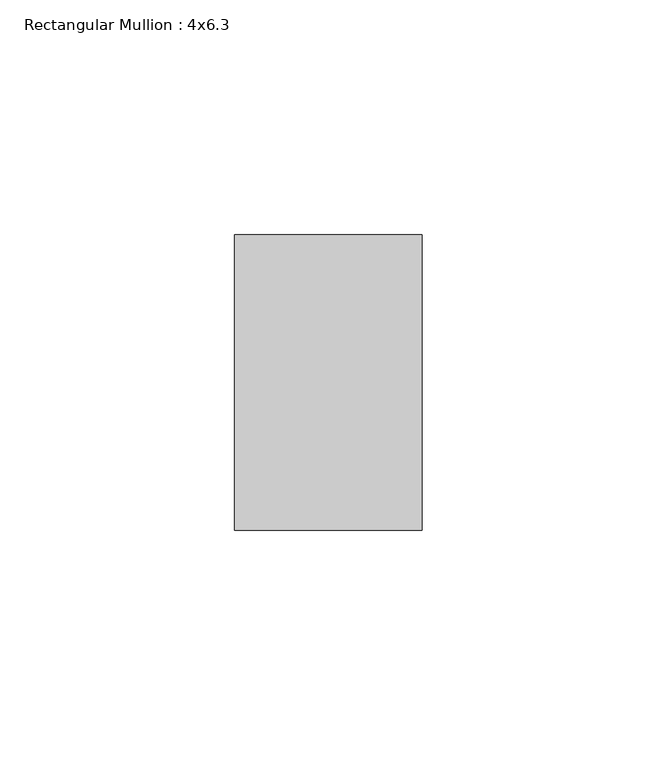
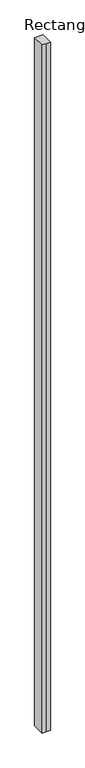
"""IFC4 building model written with IfcOpenShell, lengths in millimetres: member geometry, Rectangular Mullion : 4x6.3."""

from ifc_helpers import new_model, si_unit, frame, origin, place, context, project, spatial, polyline, outline, extrude, source, transform, mapped, element, save


def rectangular_mullion_4x6_3_14a16d08(model_context):
    return source(origin(), model_context, "Body", "SweptSolid", [
        extrude(outline(polyline([(-20.0, 20.0), (-20.0, 83.0), (20.0, 83.0), (20.0, 20.0), (0.0, 20.0), (-20.0, 20.0)])), frame((0.0, 0.0, -3562.1218242), z_axis=(0.0, 0.0, 1.0), x_axis=(1.0, 0.0, 0.0)), (0.0, 0.0, 1.0), 3562.1218242),
    ])


if __name__ == "__main__":
    model = new_model("IFC4")
    model_context = context("Model", 3, world=origin())
    ifc_project = project(units=[si_unit("LENGTHUNIT", "METRE", prefix="MILLI")], contexts=[model_context])
    site = spatial("IfcSite", under=ifc_project)
    building = spatial("IfcBuilding", under=site)
    placement = place(None, origin())
    rectangular_mullion_4x6_3_shape = rectangular_mullion_4x6_3_14a16d08(model_context)
    element("IfcMember", 1, ObjectType="Rectangular Mullion : 4x6.3", at=placement, inside=building, context=model_context, shape_type="MappedRepresentation", body=[
        mapped(rectangular_mullion_4x6_3_shape, transform((0.0, 0.0, 0.0), x_axis=(1.0, 0.0, 0.0), y_axis=(0.0, 1.0, 0.0), z_axis=(0.0, 0.0, 1.0))),
    ])
    save(model, "model.ifc")
